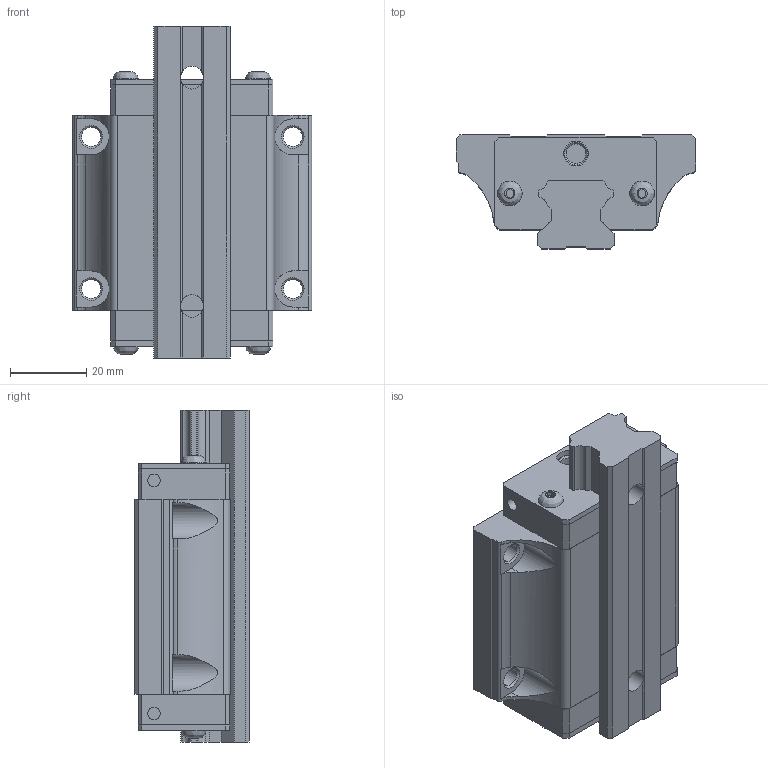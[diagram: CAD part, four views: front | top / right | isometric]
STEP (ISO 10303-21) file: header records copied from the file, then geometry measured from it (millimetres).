
FILE_DESCRIPTION( ( 'STEP AP214' ), '1' );
FILE_NAME( 'D:/濛機/紫賊/螃渦紫賊/BSQ LM BLOCK/賅筐葭/MCH/MCH20F.stp', '2019-09-24T05:11:27', ( ' ' ), ( ' ' ), 'XStep 1.0', 'VISICAD', ' ' );
FILE_SCHEMA( ( 'automotive_design' ) );
Length unit declared in the file: metre
Products named in the file (6): 1; 2; 3; 4; 5; 6
Bounding box: 63 x 30 x 87.3 mm (x, y, z)
Volume: 95815.9 mm3; surface area: 31052 mm2
Topology: 6 solids, 6 shells, 296 faces, 806 edges, 534 vertices
Faces by surface type: plane 220, cylinder 62, cone 10, bspline 4
Full cylindrical faces by diameter (mm): 3.3 x4, 5 x4, 5.188 x2, 6 x4, 6.5 x6, 9.5 x2
Entity records: 11764 total; most frequent: CARTESIAN_POINT 1870, ORIENTED_EDGE 1516, DIRECTION 1508, EDGE_CURVE 758, LINE 596, VECTOR 596, VERTEX_POINT 522, AXIS2_PLACEMENT_3D 456
